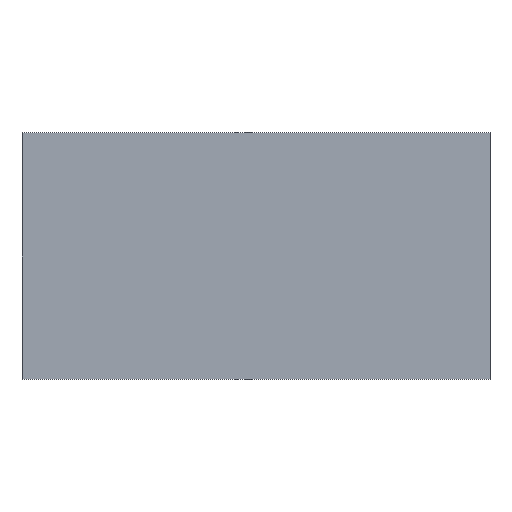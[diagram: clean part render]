
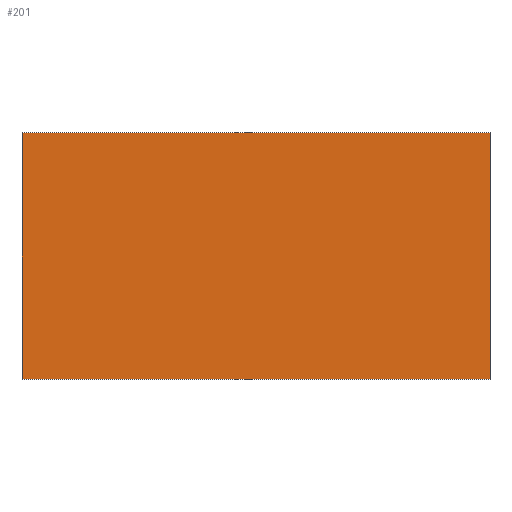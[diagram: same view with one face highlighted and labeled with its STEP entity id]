
A CAD part, top view. The second image highlights one B-rep face of the part: STEP entity #201.
In plain terms, the highlighted planar face has unit normal (0, 0, 1).
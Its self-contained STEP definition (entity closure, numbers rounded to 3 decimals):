
#9 = AXIS2_PLACEMENT_3D ( 'NONE', #100, #102, #91 ) ;
#17 = EDGE_CURVE ( 'NONE', #46, #43, #174, .T. ) ;
#19 = EDGE_CURVE ( 'NONE', #43, #45, #156, .T. ) ;
#24 = EDGE_CURVE ( 'NONE', #45, #44, #153, .T. ) ;
#28 = EDGE_CURVE ( 'NONE', #44, #46, #159, .T. ) ;
#36 = CARTESIAN_POINT ( 'NONE',  ( -454., 0., 6. ) ) ;
#37 = DIRECTION ( 'NONE',  ( 0., 1., 0. ) ) ;
#43 = VERTEX_POINT ( 'NONE', #117 ) ;
#44 = VERTEX_POINT ( 'NONE', #66 ) ;
#45 = VERTEX_POINT ( 'NONE', #36 ) ;
#46 = VERTEX_POINT ( 'NONE', #52 ) ;
#52 = CARTESIAN_POINT ( 'NONE',  ( 454., 479., 6. ) ) ;
#62 = CARTESIAN_POINT ( 'NONE',  ( -454., 479., 6. ) ) ;
#66 = CARTESIAN_POINT ( 'NONE',  ( 454., 0., 6. ) ) ;
#69 = DIRECTION ( 'NONE',  ( 1., 0., 0. ) ) ;
#70 = DIRECTION ( 'NONE',  ( 0., -1., 0. ) ) ;
#74 = CARTESIAN_POINT ( 'NONE',  ( -454., 0., 6. ) ) ;
#89 = PLANE ( 'NONE',  #9 ) ;
#91 = DIRECTION ( 'NONE',  ( 0., 1., 0. ) ) ;
#100 = CARTESIAN_POINT ( 'NONE',  ( -454., 479., 6. ) ) ;
#101 = CARTESIAN_POINT ( 'NONE',  ( 454., 0., 6. ) ) ;
#102 = DIRECTION ( 'NONE',  ( 0., 0., -1. ) ) ;
#108 = DIRECTION ( 'NONE',  ( -1., 0., 0. ) ) ;
#115 = CARTESIAN_POINT ( 'NONE',  ( -454., 0., 6. ) ) ;
#117 = CARTESIAN_POINT ( 'NONE',  ( -454., 479., 6. ) ) ;
#132 = VECTOR ( 'NONE', #108, 1000. ) ;
#136 = ORIENTED_EDGE ( 'NONE', *, *, #17, .T. ) ;
#137 = ORIENTED_EDGE ( 'NONE', *, *, #28, .T. ) ;
#144 = VECTOR ( 'NONE', #70, 1000. ) ;
#147 = VECTOR ( 'NONE', #69, 1000. ) ;
#153 = LINE ( 'NONE', #115, #147 ) ;
#156 = LINE ( 'NONE', #74, #144 ) ;
#158 = VECTOR ( 'NONE', #37, 1000. ) ;
#159 = LINE ( 'NONE', #101, #158 ) ;
#169 = ORIENTED_EDGE ( 'NONE', *, *, #19, .T. ) ;
#174 = LINE ( 'NONE', #62, #132 ) ;
#175 = ORIENTED_EDGE ( 'NONE', *, *, #24, .T. ) ;
#178 = FACE_OUTER_BOUND ( 'NONE', #189, .T. ) ;
#189 = EDGE_LOOP ( 'NONE', ( #169, #175, #137, #136 ) ) ;
#201 = ADVANCED_FACE ( 'NONE', ( #178 ), #89, .F. ) ;
